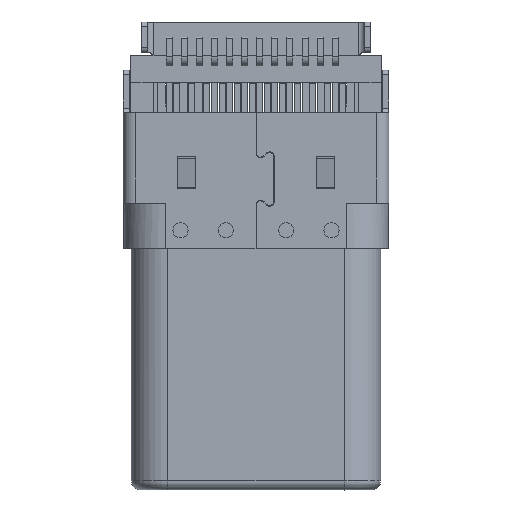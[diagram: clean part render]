
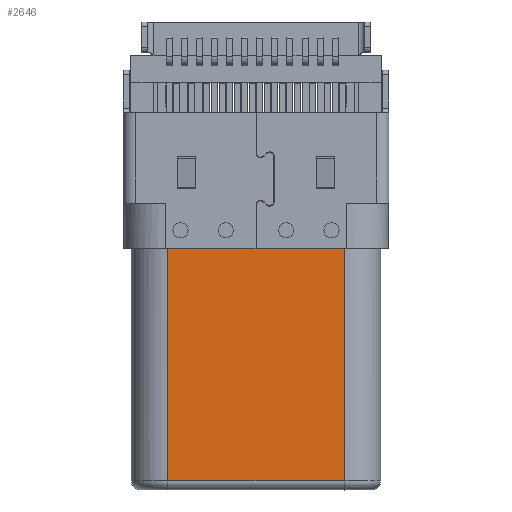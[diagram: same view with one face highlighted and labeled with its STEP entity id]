
A CAD part, front view. The second image highlights one B-rep face of the part: STEP entity #2646.
In plain terms, the highlighted planar face has unit normal (0, -1, 0).
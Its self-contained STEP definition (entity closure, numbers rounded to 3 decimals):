
#636=DIRECTION('',(1.,0.,0.));
#637=VECTOR('',#636,5.85);
#638=CARTESIAN_POINT('',(-2.925,-1.2,0.3));
#639=LINE('',#638,#637);
#901=DIRECTION('',(-1.,0.,0.));
#902=VECTOR('',#901,5.85);
#903=CARTESIAN_POINT('',(2.925,-1.2,9.835));
#904=LINE('',#903,#902);
#917=DIRECTION('',(0.,0.,1.));
#918=VECTOR('',#917,9.535);
#919=CARTESIAN_POINT('',(2.925,-1.2,0.3));
#920=LINE('',#919,#918);
#921=DIRECTION('',(0.,0.,-1.));
#922=VECTOR('',#921,9.535);
#923=CARTESIAN_POINT('',(-2.925,-1.2,9.835));
#924=LINE('',#923,#922);
#1665=CARTESIAN_POINT('',(2.925,-1.2,9.835));
#1666=VERTEX_POINT('',#1665);
#1692=CARTESIAN_POINT('',(2.925,-1.2,0.3));
#1693=VERTEX_POINT('',#1692);
#1709=CARTESIAN_POINT('',(-2.925,-1.2,0.3));
#1710=VERTEX_POINT('',#1709);
#1744=CARTESIAN_POINT('',(-2.925,-1.2,9.835));
#1745=VERTEX_POINT('',#1744);
#2633=CARTESIAN_POINT('',(0.,-1.2,5.068));
#2634=DIRECTION('',(0.,1.,0.));
#2635=DIRECTION('',(1.,0.,0.));
#2636=AXIS2_PLACEMENT_3D('',#2633,#2634,#2635);
#2637=PLANE('',#2636);
#2638=ORIENTED_EDGE('',*,*,#2589,.F.);
#2640=ORIENTED_EDGE('',*,*,#2639,.F.);
#2641=ORIENTED_EDGE('',*,*,#2382,.F.);
#2643=ORIENTED_EDGE('',*,*,#2642,.F.);
#2644=EDGE_LOOP('',(#2638,#2640,#2641,#2643));
#2645=FACE_OUTER_BOUND('',#2644,.F.);
#2646=ADVANCED_FACE('',(#2645),#2637,.F.);
#2382=EDGE_CURVE('',#1710,#1693,#639,.T.);
#2589=EDGE_CURVE('',#1666,#1745,#904,.T.);
#2639=EDGE_CURVE('',#1693,#1666,#920,.T.);
#2642=EDGE_CURVE('',#1745,#1710,#924,.T.);
